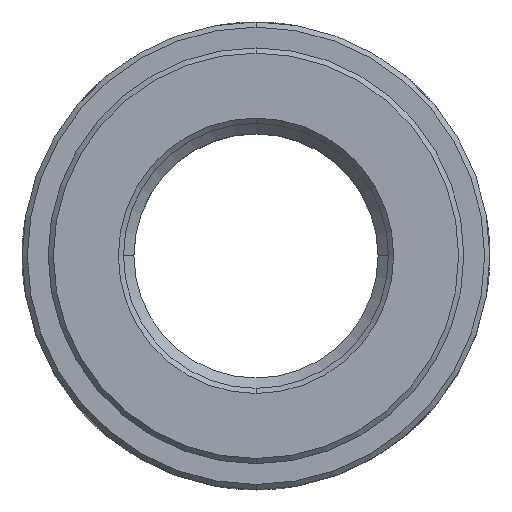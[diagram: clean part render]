
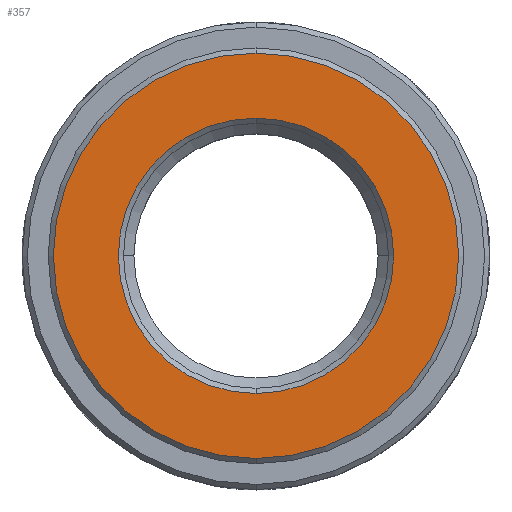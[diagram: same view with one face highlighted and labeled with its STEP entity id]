
A CAD part, top view. The second image highlights one B-rep face of the part: STEP entity #357.
In plain terms, the highlighted planar face has unit normal (0, 0, 1).
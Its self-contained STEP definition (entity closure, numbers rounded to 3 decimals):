
#113 = VERTEX_POINT ( 'NONE', #826 ) ;
#129 = VERTEX_POINT ( 'NONE', #1017 ) ;
#143 = EDGE_CURVE ( 'NONE', #113, #129, #1008, .T. ) ;
#197 = VERTEX_POINT ( 'NONE', #1331 ) ;
#198 = EDGE_CURVE ( 'NONE', #199, #197, #1326, .T. ) ;
#199 = VERTEX_POINT ( 'NONE', #1268 ) ;
#253 = EDGE_LOOP ( 'NONE', ( #305, #307 ) ) ;
#305 = ORIENTED_EDGE ( 'NONE', *, *, #198, .T. ) ;
#307 = ORIENTED_EDGE ( 'NONE', *, *, #308, .T. ) ;
#308 = EDGE_CURVE ( 'NONE', #197, #199, #1512, .T. ) ;
#357 = ADVANCED_FACE ( 'NONE', ( #1838, #1847 ), #1662, .F. ) ;
#358 = EDGE_CURVE ( 'NONE', #129, #113, #1774, .T. ) ;
#360 = EDGE_LOOP ( 'NONE', ( #361, #364 ) ) ;
#361 = ORIENTED_EDGE ( 'NONE', *, *, #358, .T. ) ;
#364 = ORIENTED_EDGE ( 'NONE', *, *, #143, .T. ) ;
#826 = CARTESIAN_POINT ( 'NONE',  ( 0., -19.5, 10. ) ) ;
#1008 = CIRCLE ( 'NONE', #1135, 19.5 ) ;
#1017 = CARTESIAN_POINT ( 'NONE',  ( 0., 19.5, 10. ) ) ;
#1132 = DIRECTION ( 'NONE',  ( 0., 1., 0. ) ) ;
#1133 = DIRECTION ( 'NONE',  ( 0., 0., 1. ) ) ;
#1134 = CARTESIAN_POINT ( 'NONE',  ( 0., 0., 10. ) ) ;
#1135 = AXIS2_PLACEMENT_3D ( 'NONE', #1134, #1133, #1132 ) ;
#1264 = DIRECTION ( 'NONE',  ( 0., 1., 0. ) ) ;
#1265 = DIRECTION ( 'NONE',  ( 0., 0., -1. ) ) ;
#1266 = CARTESIAN_POINT ( 'NONE',  ( 0., 0., 10. ) ) ;
#1268 = CARTESIAN_POINT ( 'NONE',  ( 0., -13.25, 10. ) ) ;
#1326 = CIRCLE ( 'NONE', #1351, 13.25 ) ;
#1331 = CARTESIAN_POINT ( 'NONE',  ( 0., 13.25, 10. ) ) ;
#1351 = AXIS2_PLACEMENT_3D ( 'NONE', #1266, #1265, #1264 ) ;
#1507 = DIRECTION ( 'NONE',  ( 0., 1., 0. ) ) ;
#1508 = DIRECTION ( 'NONE',  ( 0., 0., -1. ) ) ;
#1509 = CARTESIAN_POINT ( 'NONE',  ( 0., 0., 10. ) ) ;
#1511 = AXIS2_PLACEMENT_3D ( 'NONE', #1509, #1508, #1507 ) ;
#1512 = CIRCLE ( 'NONE', #1511, 13.25 ) ;
#1658 = DIRECTION ( 'NONE',  ( 0., 1., 0. ) ) ;
#1659 = DIRECTION ( 'NONE',  ( 0., 0., -1. ) ) ;
#1660 = CARTESIAN_POINT ( 'NONE',  ( 0., 20., 10. ) ) ;
#1661 = AXIS2_PLACEMENT_3D ( 'NONE', #1660, #1659, #1658 ) ;
#1662 = PLANE ( 'NONE',  #1661 ) ;
#1770 = DIRECTION ( 'NONE',  ( 0., 1., 0. ) ) ;
#1771 = DIRECTION ( 'NONE',  ( 0., 0., 1. ) ) ;
#1772 = CARTESIAN_POINT ( 'NONE',  ( 0., 0., 10. ) ) ;
#1773 = AXIS2_PLACEMENT_3D ( 'NONE', #1772, #1771, #1770 ) ;
#1774 = CIRCLE ( 'NONE', #1773, 19.5 ) ;
#1838 = FACE_BOUND ( 'NONE', #253, .T. ) ;
#1847 = FACE_OUTER_BOUND ( 'NONE', #360, .T. ) ;
